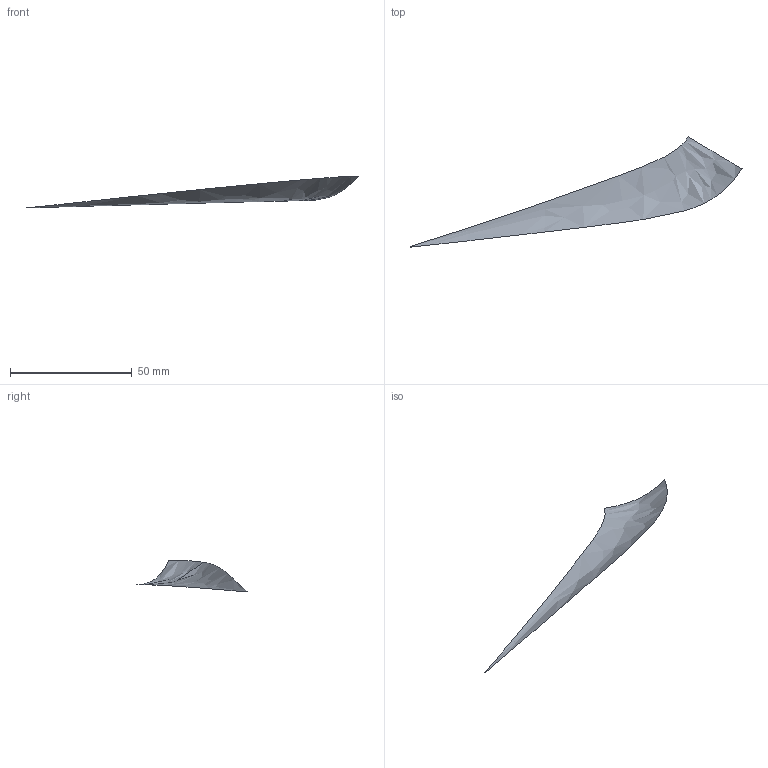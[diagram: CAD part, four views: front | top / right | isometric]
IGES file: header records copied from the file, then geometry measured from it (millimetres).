
Start section: START RECORD GO HERE
Global section: file name: t2.igs; native system: IBM CATIA IGES - CATIA SOLUTIONS V4RELEASE 1.9 REFRESH 01; preprocessor: CATIA SOLUTIONS V4RELEASE 1.9 REFRESH 01; author: cky; date: 990510.133752; units: millimetre
Bounding box: 136.53 x 45.36 x 13.09 mm (x, y, z)
Surface area: 2071.9 mm2 (no closed solid volume)
Topology: 0 solids, 0 shells, 1 faces, 22 edges, 22 vertices
Faces by surface type: bspline 1
